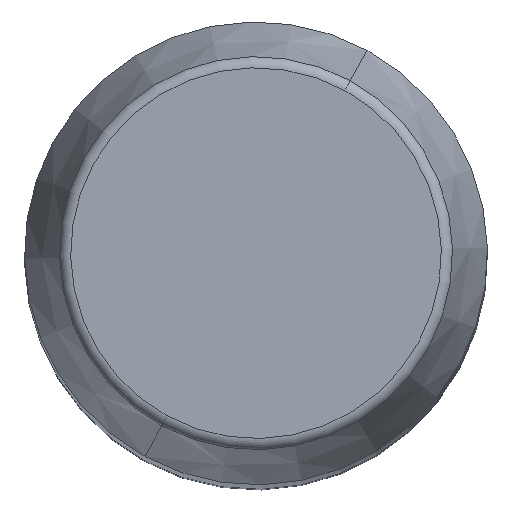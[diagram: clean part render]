
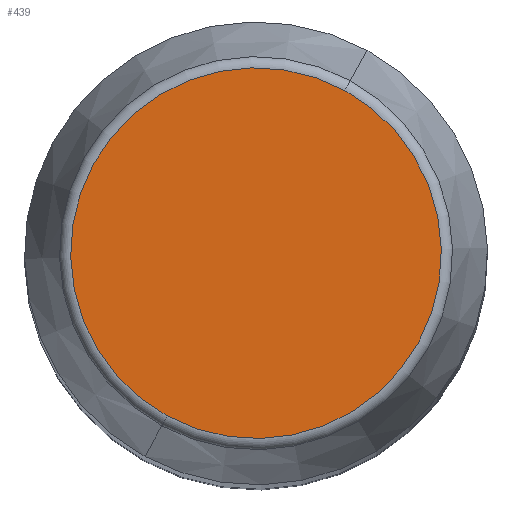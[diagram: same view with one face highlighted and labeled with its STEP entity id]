
A CAD part, top view. The second image highlights one B-rep face of the part: STEP entity #439.
In plain terms, the highlighted planar face has unit normal (0, 0, 1).
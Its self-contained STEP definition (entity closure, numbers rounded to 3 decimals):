
#391=CARTESIAN_POINT('Vertex',(-7.679,-14.056,280.)) ;
#394=CARTESIAN_POINT('Axis2P3D Location',(0.,0.,280.)) ;
#398=CARTESIAN_POINT('Vertex',(7.679,14.056,280.)) ;
#418=CARTESIAN_POINT('Axis2P3D Location',(0.,0.,280.)) ;
#430=CARTESIAN_POINT('Axis2P3D Location',(0.,16.017,280.)) ;
#395=DIRECTION('Axis2P3D Direction',(0.,0.,-1.)) ;
#419=DIRECTION('Axis2P3D Direction',(0.,0.,-1.)) ;
#431=DIRECTION('Axis2P3D Direction',(0.,0.,-1.)) ;
#432=DIRECTION('Axis2P3D XDirection',(1.,0.,0.)) ;
#396=AXIS2_PLACEMENT_3D('Circle Axis2P3D',#394,#395,$) ;
#420=AXIS2_PLACEMENT_3D('Circle Axis2P3D',#418,#419,$) ;
#433=AXIS2_PLACEMENT_3D('Plane Axis2P3D',#430,#431,#432) ;
#436=ORIENTED_EDGE('',*,*,#422,.F.) ;
#437=ORIENTED_EDGE('',*,*,#400,.F.) ;
#439=ADVANCED_FACE('PartBody',(#438),#434,.F.) ;
#397=CIRCLE('generated circle',#396,16.017) ;
#421=CIRCLE('generated circle',#420,16.017) ;
#400=EDGE_CURVE('',#392,#399,#397,.T.) ;
#422=EDGE_CURVE('',#399,#392,#421,.T.) ;
#435=EDGE_LOOP('',(#436,#437)) ;
#438=FACE_OUTER_BOUND('',#435,.T.) ;
#434=PLANE('Plane',#433) ;
#392=VERTEX_POINT('',#391) ;
#399=VERTEX_POINT('',#398) ;
